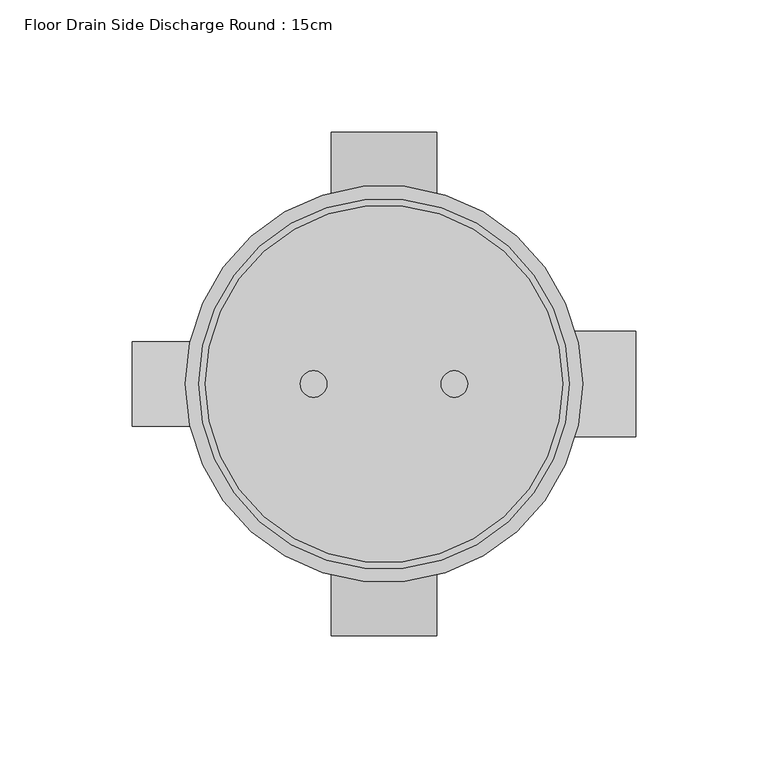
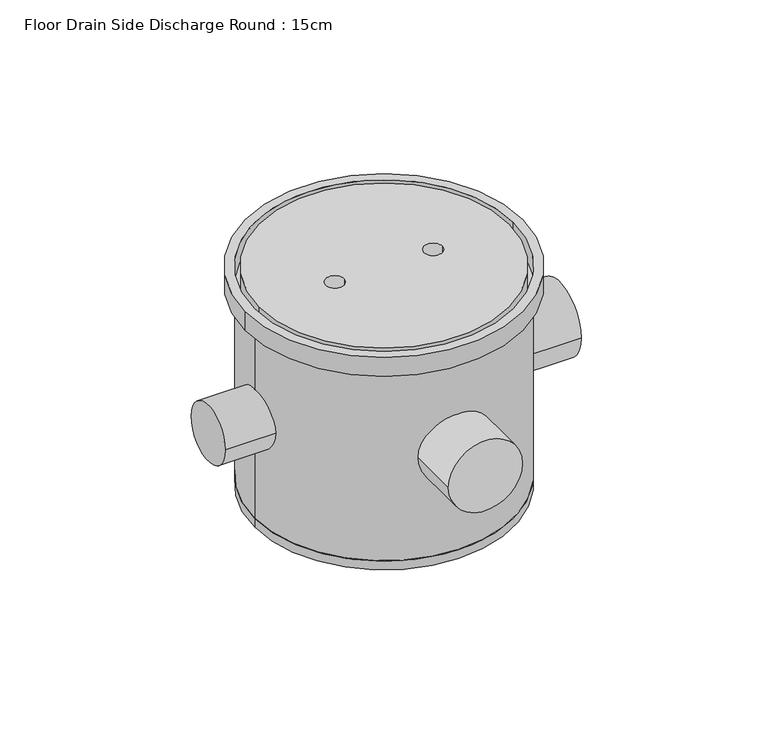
"""IFC4 building model written with IfcOpenShell, lengths in millimetres: flow terminal geometry, Floor Drain Side Discharge Round : 15cm."""

from ifc_helpers import new_model, si_unit, point, frame, frame_2d, origin, place, context, project, spatial, circle_curve, trimmed, segment, composite_curve, outline, extrude, source, transform, mapped, element, save


def floor_drain_side_discharge_round_15cm_d06e9d18(model_context):
    return source(origin(), model_context, "Body", "SweptSolid", [
        extrude(outline(composite_curve([segment(trimmed(circle_curve(frame_2d((-62.5, 0.0)), 20.0), [point((-62.5, -20.0))], [point((-62.5, 20.0))], False, "CARTESIAN"), True, "CONTINUOUS"), segment(trimmed(circle_curve(frame_2d((-62.5, 0.0)), 20.0), [point((-62.5, 20.0))], [point((-62.5, -20.0))], False, "CARTESIAN"), True, "CONTINUOUS")], self_intersect=False)), frame((0.0, -43.8731225, 0.0), z_axis=(0.0, 1.0, 0.0), x_axis=(0.0, 0.0, 1.0)), (0.0, 0.0, 1.0), 40.0),
        extrude(outline(composite_curve([segment(trimmed(circle_curve(frame_2d((-98.8731225, -62.5)), 16.0), [point((-114.8731225, -62.5))], [point((-82.8731225, -62.5))], False, "CARTESIAN"), True, "CONTINUOUS"), segment(trimmed(circle_curve(frame_2d((-98.8731225, -62.5)), 16.0), [point((-82.8731225, -62.5))], [point((-114.8731225, -62.5))], False, "CARTESIAN"), True, "CONTINUOUS")], self_intersect=False)), frame((-95.0, 0.0, 0.0), z_axis=(1.0, 0.0, 0.0), x_axis=(0.0, 1.0, 0.0)), (0.0, 0.0, 1.0), 40.0),
        extrude(outline(composite_curve([segment(trimmed(circle_curve(frame_2d((-98.8731225, -62.5)), 20.0), [point((-118.8731225, -62.5))], [point((-78.8731225, -62.5))], False, "CARTESIAN"), True, "CONTINUOUS"), segment(trimmed(circle_curve(frame_2d((-98.8731225, -62.5)), 20.0), [point((-78.8731225, -62.5))], [point((-118.8731225, -62.5))], False, "CARTESIAN"), True, "CONTINUOUS")], self_intersect=False)), frame((55.0, 0.0, 0.0), z_axis=(1.0, 0.0, 0.0), x_axis=(0.0, 1.0, 0.0)), (0.0, 0.0, 1.0), 40.0),
        extrude(outline(composite_curve([segment(trimmed(circle_curve(frame_2d((-62.5, 0.0)), 20.0), [point((-62.5, -20.0))], [point((-62.5, 20.0))], False, "CARTESIAN"), True, "CONTINUOUS"), segment(trimmed(circle_curve(frame_2d((-62.5, 0.0)), 20.0), [point((-62.5, 20.0))], [point((-62.5, -20.0))], False, "CARTESIAN"), True, "CONTINUOUS")], self_intersect=False)), frame((0.0, -193.8731225, 0.0), z_axis=(0.0, 1.0, 0.0), x_axis=(0.0, 0.0, 1.0)), (0.0, 0.0, 1.0), 40.0),
        extrude(outline(composite_curve([segment(trimmed(circle_curve(frame_2d((0.0, -98.8731225)), 75.0), [point((-75.0, -98.8731225))], [point((75.0, -98.8731225))], False, "CARTESIAN"), True, "CONTINUOUS"), segment(trimmed(circle_curve(frame_2d((0.0, -98.8731225)), 75.0), [point((75.0, -98.8731225))], [point((-75.0, -98.8731225))], False, "CARTESIAN"), True, "CONTINUOUS")], self_intersect=False), holes=[composite_curve([segment(trimmed(circle_curve(frame_2d((0.0, -98.8731225)), 70.0), [point((-70.0, -98.8731225))], [point((70.0, -98.8731225))], True, "CARTESIAN"), True, "CONTINUOUS"), segment(trimmed(circle_curve(frame_2d((0.0, -98.8731225)), 70.0), [point((70.0, -98.8731225))], [point((-70.0, -98.8731225))], True, "CARTESIAN"), True, "CONTINUOUS")], self_intersect=False)]), frame((0.0, 0.0, -10.7801662), z_axis=(0.0, 0.0, 1.0), x_axis=(1.0, 0.0, 0.0)), (0.0, 0.0, 1.0), 10.7801662),
        extrude(outline(composite_curve([segment(trimmed(circle_curve(frame_2d((0.0, -98.8731225)), 67.5), [point((-67.5, -98.8731225))], [point((67.5, -98.8731225))], False, "CARTESIAN"), True, "CONTINUOUS"), segment(trimmed(circle_curve(frame_2d((0.0, -98.8731225)), 67.5), [point((67.5, -98.8731225))], [point((-67.5, -98.8731225))], False, "CARTESIAN"), True, "CONTINUOUS")], self_intersect=False), holes=[composite_curve([segment(trimmed(circle_curve(frame_2d((26.5843738, -98.8731225)), 5.0), [point((21.5843738, -98.8731225))], [point((31.5843738, -98.8731225))], True, "CARTESIAN"), True, "CONTINUOUS"), segment(trimmed(circle_curve(frame_2d((26.5843738, -98.8731225)), 5.0), [point((31.5843738, -98.8731225))], [point((21.5843738, -98.8731225))], True, "CARTESIAN"), True, "CONTINUOUS")], self_intersect=False), composite_curve([segment(trimmed(circle_curve(frame_2d((-26.5843738, -98.8731225)), 5.0), [point((-31.5843738, -98.8731225))], [point((-21.5843738, -98.8731225))], True, "CARTESIAN"), True, "CONTINUOUS"), segment(trimmed(circle_curve(frame_2d((-26.5843738, -98.8731225)), 5.0), [point((-21.5843738, -98.8731225))], [point((-31.5843738, -98.8731225))], True, "CARTESIAN"), True, "CONTINUOUS")], self_intersect=False)]), frame((0.0, 0.0, -10.7801662), z_axis=(0.0, 0.0, 1.0), x_axis=(1.0, 0.0, 0.0)), (0.0, 0.0, 1.0), 10.7801662),
        extrude(outline(composite_curve([segment(trimmed(circle_curve(frame_2d((0.0, -98.8731225)), 70.0), [point((70.0, -98.8731225))], [point((-70.0, -98.8731225))], False, "CARTESIAN"), True, "CONTINUOUS"), segment(trimmed(circle_curve(frame_2d((0.0, -98.8731225)), 70.0), [point((-70.0, -98.8731225))], [point((70.0, -98.8731225))], False, "CARTESIAN"), True, "CONTINUOUS")], self_intersect=False)), frame((0.0, 0.0, -125.0), z_axis=(0.0, 0.0, 1.0), x_axis=(1.0, 0.0, 0.0)), (0.0, 0.0, 1.0), 5.0),
        extrude(outline(composite_curve([segment(trimmed(circle_curve(frame_2d((0.0, -98.8731225)), 70.0), [point((-70.0, -98.8731225))], [point((70.0, -98.8731225))], False, "CARTESIAN"), True, "CONTINUOUS"), segment(trimmed(circle_curve(frame_2d((0.0, -98.8731225)), 70.0), [point((70.0, -98.8731225))], [point((-70.0, -98.8731225))], False, "CARTESIAN"), True, "CONTINUOUS")], self_intersect=False), holes=[composite_curve([segment(trimmed(circle_curve(frame_2d((0.0, -98.8731225)), 67.5), [point((-67.5, -98.8731225))], [point((67.5, -98.8731225))], True, "CARTESIAN"), True, "CONTINUOUS"), segment(trimmed(circle_curve(frame_2d((0.0, -98.8731225)), 67.5), [point((67.5, -98.8731225))], [point((-67.5, -98.8731225))], True, "CARTESIAN"), True, "CONTINUOUS")], self_intersect=False)]), frame((0.0, 0.0, -125.0), z_axis=(0.0, 0.0, 1.0), x_axis=(1.0, 0.0, 0.0)), (0.0, 0.0, 1.0), 114.2198338),
    ])


if __name__ == "__main__":
    model = new_model("IFC4")
    model_context = context("Model", 3, world=origin())
    ifc_project = project(units=[si_unit("LENGTHUNIT", "METRE", prefix="MILLI")], contexts=[model_context])
    site = spatial("IfcSite", under=ifc_project)
    building = spatial("IfcBuilding", under=site)
    placement = place(None, origin())
    floor_drain_side_discharge_round_15cm_shape = floor_drain_side_discharge_round_15cm_d06e9d18(model_context)
    element("IfcFlowTerminal", 1, ObjectType="Floor Drain Side Discharge Round : 15cm", at=placement, inside=building, context=model_context, shape_type="MappedRepresentation", body=[
        mapped(floor_drain_side_discharge_round_15cm_shape, transform((0.0, 0.0, 0.0), x_axis=(1.0, 0.0, 0.0), y_axis=(0.0, 1.0, 0.0), z_axis=(0.0, 0.0, 1.0))),
    ])
    save(model, "model.ifc")
